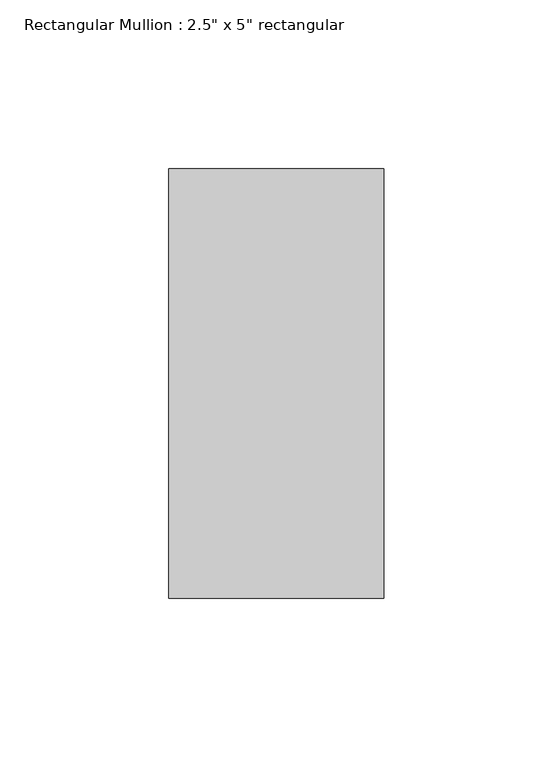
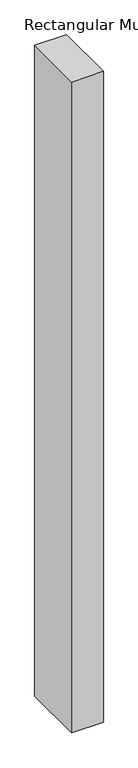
"""IFC4 building model written with IfcOpenShell, lengths in millimetres: member geometry."""

from ifc_helpers import new_model, si_unit, frame, origin, place, context, project, spatial, polyline, outline, extrude, source, transform, mapped, element, save


def member_91c435ce(model_context):
    return source(origin(), model_context, "Body", "SweptSolid", [
        extrude(outline(polyline([(0.0, 63.5), (0.0, -63.5), (-63.5, -63.5), (-63.5, 63.5), (0.0, 63.5)])), frame((0.0, 0.0, -1371.5999998), z_axis=(0.0, 0.0, 1.0), x_axis=(1.0, 0.0, 0.0)), (0.0, 0.0, 1.0), 1371.5999998),
    ])


if __name__ == "__main__":
    model = new_model("IFC4")
    model_context = context("Model", 3, world=origin())
    ifc_project = project(units=[si_unit("LENGTHUNIT", "METRE", prefix="MILLI")], contexts=[model_context])
    site = spatial("IfcSite", under=ifc_project)
    building = spatial("IfcBuilding", under=site)
    placement = place(None, origin())
    member_shape = member_91c435ce(model_context)
    element("IfcMember", 1, ObjectType="Rectangular Mullion : 2.5\" x 5\" rectangular", at=placement, inside=building, context=model_context, shape_type="MappedRepresentation", body=[
        mapped(member_shape, transform((0.0, 0.0, 0.0), x_axis=(1.0, 0.0, 0.0), y_axis=(0.0, 1.0, 0.0), z_axis=(0.0, 0.0, 1.0))),
    ])
    save(model, "model.ifc")
